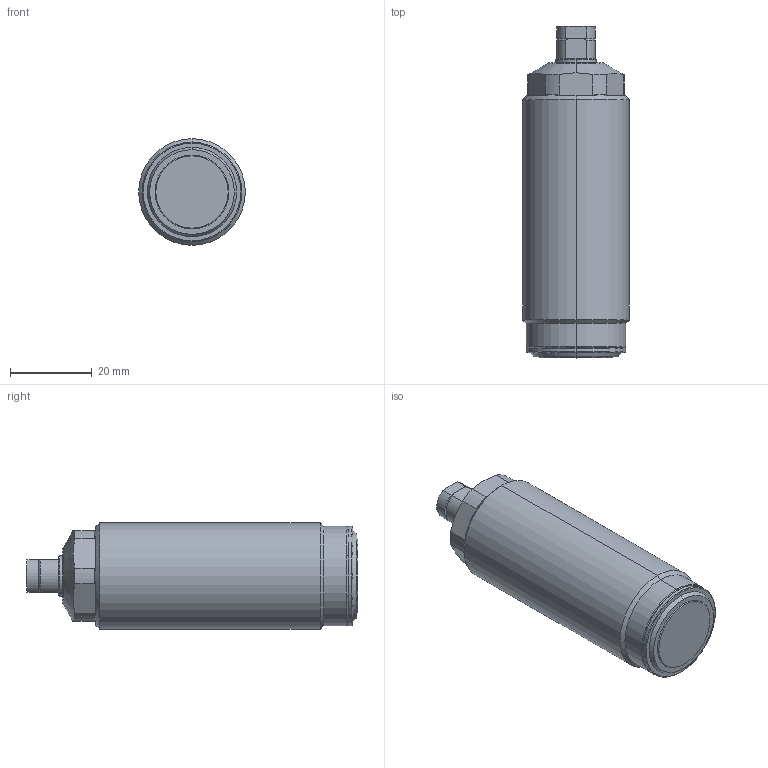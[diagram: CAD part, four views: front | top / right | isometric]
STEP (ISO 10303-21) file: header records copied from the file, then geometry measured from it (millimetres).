
FILE_DESCRIPTION(/* description */ (''),/* implementation_level */ '2;1');
FILE_NAME(/* name */ 'TSC00-PQ.stp',/* time_stamp */ '2024-01-06T14:06:59+08:00',/* author */ (''),/* organization */ (''),/* preprocessor_version */ 'ST-DEVELOPER v16.7',/* originating_system */ 'SIEMENS PLM Software NX 12.0',/* authorisation */ '');
FILE_SCHEMA (('AP203_CONFIGURATION_CONTROLLED_3D_DESIGN_OF_MECHANICAL_PARTS_AND_ASSEMBLIES_MIM_LF { 1 0 10303 403 2 1 2}'));
Length unit declared in the file: millimetre
Products named in the file (4): TSC00-PQ-03; TSC00-PQ-02; TSC00-PQ-01; CSY00-S13_step
Assembly tree (3 placements, depth 2):
  CSY00-S13_step
    TSC00-PQ-01
    TSC00-PQ-02
    TSC00-PQ-03
Bounding box: 26 x 81 x 26 mm (x, y, z)
Volume: 36469.7 mm3; surface area: 8259.5 mm2
Topology: 3 solids, 3 shells, 100 faces, 226 edges, 139 vertices
Faces by surface type: cylinder 32, plane 30, cone 22, torus 14, sphere 2
Entity records: 3285 total; most frequent: CARTESIAN_POINT 553, DIRECTION 530, ORIENTED_EDGE 452, AXIS2_PLACEMENT_3D 228, EDGE_CURVE 226, VERTEX_POINT 139, CIRCLE 124, EDGE_LOOP 107
